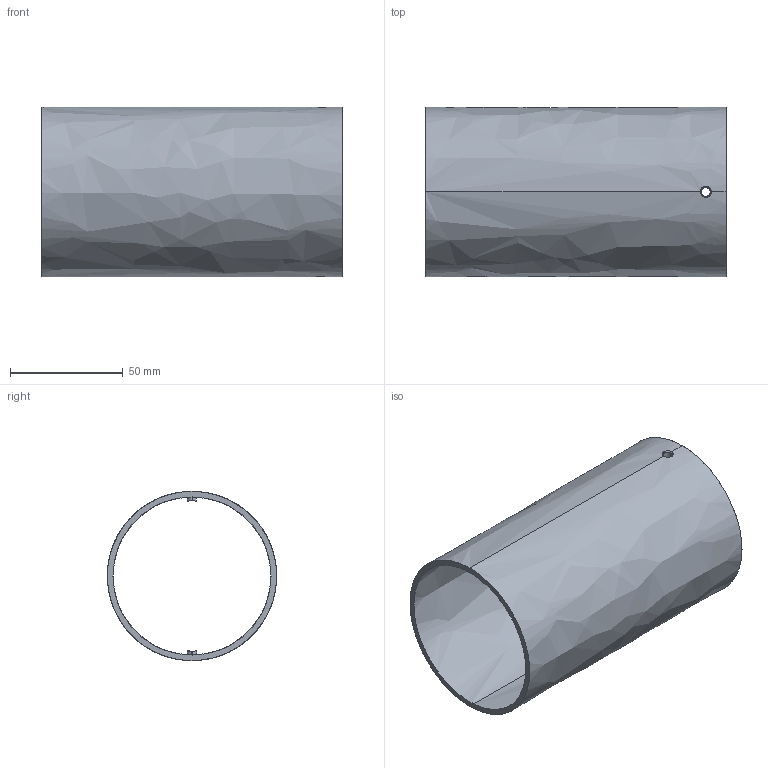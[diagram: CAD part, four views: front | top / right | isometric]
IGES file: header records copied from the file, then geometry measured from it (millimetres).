
Start section: SolidWorks IGES file using analytic representation for surfaces
Global section: file name: \\Kikaku_server01\kikaku\; native system: Rhinoceros ( Feb 22 2008 ); preprocessor: Trout Lake IGES 012 Feb 22 2008; date: 080924.002236; units: millimetre
Bounding box: 133 x 75 x 75 mm (x, y, z)
Surface area: 32574.1 mm2 (no closed solid volume)
Topology: 0 solids, 0 shells, 12 faces, 306 edges, 306 vertices
Faces by surface type: bspline 12
